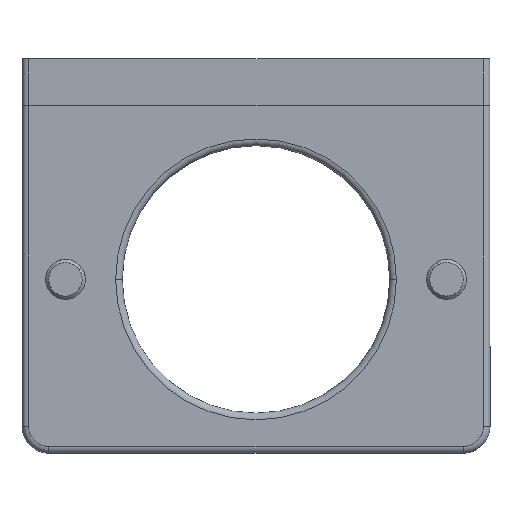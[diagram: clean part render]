
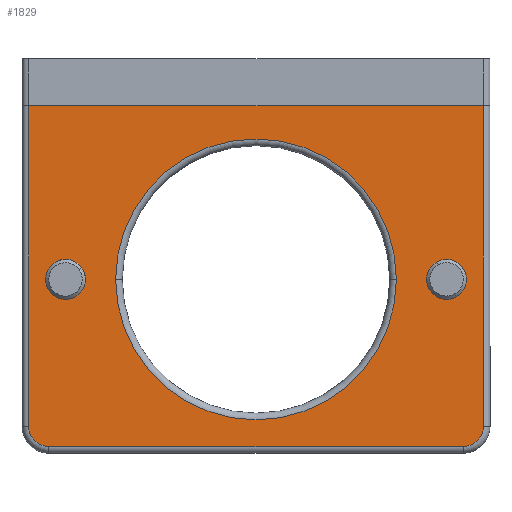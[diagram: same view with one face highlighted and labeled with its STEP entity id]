
A CAD part, front view. The second image highlights one B-rep face of the part: STEP entity #1829.
In plain terms, the highlighted planar face has unit normal (0, -1, 0).
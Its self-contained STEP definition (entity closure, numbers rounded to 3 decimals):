
#123 = LINE ( 'NONE', #3876, #3827 ) ;
#176 = DIRECTION ( 'NONE',  ( 1., 0., 0. ) ) ;
#262 = CARTESIAN_POINT ( 'NONE',  ( 43.232, -6.936, -3.5 ) ) ;
#297 = DIRECTION ( 'NONE',  ( -1., 0., 0. ) ) ;
#310 = CARTESIAN_POINT ( 'NONE',  ( -21.768, -6.936, -51.5 ) ) ;
#571 = CIRCLE ( 'NONE', #3276, 3. ) ;
#688 = ORIENTED_EDGE ( 'NONE', *, *, #3683, .T. ) ;
#690 = CARTESIAN_POINT ( 'NONE',  ( -19.268, -6.936, -29.5 ) ) ;
#703 = LINE ( 'NONE', #1059, #3357 ) ;
#757 = DIRECTION ( 'NONE',  ( 0., 1., 0. ) ) ;
#775 = EDGE_CURVE ( 'NONE', #3717, #3322, #4233, .T. ) ;
#796 = DIRECTION ( 'NONE',  ( 1., 0., 0. ) ) ;
#875 = CARTESIAN_POINT ( 'NONE',  ( 37.732, -6.936, -29.5 ) ) ;
#946 = CARTESIAN_POINT ( 'NONE',  ( 43.232, -6.936, -51.5 ) ) ;
#975 = VERTEX_POINT ( 'NONE', #2696 ) ;
#1042 = EDGE_LOOP ( 'NONE', ( #6017, #5910 ) ) ;
#1059 = CARTESIAN_POINT ( 'NONE',  ( -25.768, -6.936, -54.5 ) ) ;
#1079 = DIRECTION ( 'NONE',  ( 0., 0., -1. ) ) ;
#1091 = CARTESIAN_POINT ( 'NONE',  ( -25.768, -6.936, -3.5 ) ) ;
#1107 = VERTEX_POINT ( 'NONE', #6140 ) ;
#1128 = CARTESIAN_POINT ( 'NONE',  ( -25.768, -6.936, -3.5 ) ) ;
#1152 = EDGE_LOOP ( 'NONE', ( #3590, #2668 ) ) ;
#1230 = CARTESIAN_POINT ( 'NONE',  ( 40.232, -6.936, -51.5 ) ) ;
#1246 = DIRECTION ( 'NONE',  ( 0., -1., 0. ) ) ;
#1294 = DIRECTION ( 'NONE',  ( 1., 0., 0. ) ) ;
#1357 = AXIS2_PLACEMENT_3D ( 'NONE', #5239, #3369, #5197 ) ;
#1458 = VERTEX_POINT ( 'NONE', #5953 ) ;
#1520 = ORIENTED_EDGE ( 'NONE', *, *, #3324, .T. ) ;
#1574 = EDGE_CURVE ( 'NONE', #3520, #2646, #6061, .T. ) ;
#1829 = ADVANCED_FACE ( 'NONE', ( #6200, #3768, #5037, #1955 ), #3976, .F. ) ;
#1908 = AXIS2_PLACEMENT_3D ( 'NONE', #3584, #5456, #2596 ) ;
#1934 = CIRCLE ( 'NONE', #5474, 21. ) ;
#1955 = FACE_BOUND ( 'NONE', #1042, .T. ) ;
#2057 = CARTESIAN_POINT ( 'NONE',  ( -21.768, -6.936, -54.5 ) ) ;
#2145 = DIRECTION ( 'NONE',  ( 1., 0., 0. ) ) ;
#2271 = LINE ( 'NONE', #262, #5399 ) ;
#2280 = CARTESIAN_POINT ( 'NONE',  ( -24.768, -6.936, -3.5 ) ) ;
#2379 = ORIENTED_EDGE ( 'NONE', *, *, #4955, .T. ) ;
#2405 = CIRCLE ( 'NONE', #3306, 21. ) ;
#2527 = ORIENTED_EDGE ( 'NONE', *, *, #6202, .T. ) ;
#2596 = DIRECTION ( 'NONE',  ( 1., 0., 0. ) ) ;
#2646 = VERTEX_POINT ( 'NONE', #6004 ) ;
#2668 = ORIENTED_EDGE ( 'NONE', *, *, #1574, .T. ) ;
#2696 = CARTESIAN_POINT ( 'NONE',  ( -24.768, -6.936, -51.5 ) ) ;
#2764 = VERTEX_POINT ( 'NONE', #2280 ) ;
#2823 = VERTEX_POINT ( 'NONE', #3681 ) ;
#2892 = EDGE_CURVE ( 'NONE', #2646, #3520, #3076, .T. ) ;
#3076 = CIRCLE ( 'NONE', #1357, 3. ) ;
#3184 = DIRECTION ( 'NONE',  ( 0., 1., 0. ) ) ;
#3229 = EDGE_CURVE ( 'NONE', #3322, #3717, #3688, .T. ) ;
#3276 = AXIS2_PLACEMENT_3D ( 'NONE', #1230, #1246, #6010 ) ;
#3306 = AXIS2_PLACEMENT_3D ( 'NONE', #5168, #3184, #1294 ) ;
#3322 = VERTEX_POINT ( 'NONE', #5645 ) ;
#3324 = EDGE_CURVE ( 'NONE', #1458, #2823, #2405, .T. ) ;
#3357 = VECTOR ( 'NONE', #4369, 1000. ) ;
#3369 = DIRECTION ( 'NONE',  ( 0., 1., 0. ) ) ;
#3520 = VERTEX_POINT ( 'NONE', #6211 ) ;
#3552 = EDGE_CURVE ( 'NONE', #2764, #975, #123, .T. ) ;
#3584 = CARTESIAN_POINT ( 'NONE',  ( -19.268, -6.936, -29.5 ) ) ;
#3590 = ORIENTED_EDGE ( 'NONE', *, *, #2892, .T. ) ;
#3621 = CARTESIAN_POINT ( 'NONE',  ( 40.232, -6.936, -54.5 ) ) ;
#3652 = DIRECTION ( 'NONE',  ( 0., 0., 1. ) ) ;
#3681 = CARTESIAN_POINT ( 'NONE',  ( -11.768, -6.936, -29.5 ) ) ;
#3683 = EDGE_CURVE ( 'NONE', #5605, #5383, #571, .T. ) ;
#3688 = CIRCLE ( 'NONE', #6077, 3. ) ;
#3701 = DIRECTION ( 'NONE',  ( 0., 1., 0. ) ) ;
#3717 = VERTEX_POINT ( 'NONE', #4584 ) ;
#3727 = ORIENTED_EDGE ( 'NONE', *, *, #4320, .T. ) ;
#3768 = FACE_BOUND ( 'NONE', #1152, .T. ) ;
#3780 = CARTESIAN_POINT ( 'NONE',  ( 9.232, -6.936, -29.5 ) ) ;
#3802 = LINE ( 'NONE', #1128, #6164 ) ;
#3827 = VECTOR ( 'NONE', #1079, 1000. ) ;
#3857 = AXIS2_PLACEMENT_3D ( 'NONE', #1091, #6018, #4101 ) ;
#3876 = CARTESIAN_POINT ( 'NONE',  ( -24.768, -6.936, -3.5 ) ) ;
#3878 = ORIENTED_EDGE ( 'NONE', *, *, #5033, .F. ) ;
#3976 = PLANE ( 'NONE',  #3857 ) ;
#3984 = ORIENTED_EDGE ( 'NONE', *, *, #3552, .T. ) ;
#4101 = DIRECTION ( 'NONE',  ( 1., 0., 0. ) ) ;
#4125 = AXIS2_PLACEMENT_3D ( 'NONE', #310, #4203, #796 ) ;
#4180 = DIRECTION ( 'NONE',  ( 1., 0., 0. ) ) ;
#4203 = DIRECTION ( 'NONE',  ( 0., -1., 0. ) ) ;
#4233 = CIRCLE ( 'NONE', #1908, 3. ) ;
#4254 = AXIS2_PLACEMENT_3D ( 'NONE', #875, #5104, #297 ) ;
#4320 = EDGE_CURVE ( 'NONE', #975, #4917, #4636, .T. ) ;
#4363 = EDGE_CURVE ( 'NONE', #2823, #1458, #1934, .T. ) ;
#4369 = DIRECTION ( 'NONE',  ( 1., 0., 0. ) ) ;
#4584 = CARTESIAN_POINT ( 'NONE',  ( -22.268, -6.936, -29.5 ) ) ;
#4636 = CIRCLE ( 'NONE', #4125, 3. ) ;
#4917 = VERTEX_POINT ( 'NONE', #2057 ) ;
#4955 = EDGE_CURVE ( 'NONE', #4917, #5605, #703, .T. ) ;
#5033 = EDGE_CURVE ( 'NONE', #2764, #1107, #3802, .T. ) ;
#5037 = FACE_OUTER_BOUND ( 'NONE', #6169, .T. ) ;
#5104 = DIRECTION ( 'NONE',  ( 0., 1., 0. ) ) ;
#5168 = CARTESIAN_POINT ( 'NONE',  ( 9.232, -6.936, -29.5 ) ) ;
#5197 = DIRECTION ( 'NONE',  ( -1., 0., 0. ) ) ;
#5239 = CARTESIAN_POINT ( 'NONE',  ( 37.732, -6.936, -29.5 ) ) ;
#5383 = VERTEX_POINT ( 'NONE', #946 ) ;
#5399 = VECTOR ( 'NONE', #3652, 1000. ) ;
#5456 = DIRECTION ( 'NONE',  ( 0., 1., 0. ) ) ;
#5474 = AXIS2_PLACEMENT_3D ( 'NONE', #3780, #3701, #4180 ) ;
#5487 = ORIENTED_EDGE ( 'NONE', *, *, #4363, .T. ) ;
#5605 = VERTEX_POINT ( 'NONE', #3621 ) ;
#5645 = CARTESIAN_POINT ( 'NONE',  ( -16.268, -6.936, -29.5 ) ) ;
#5910 = ORIENTED_EDGE ( 'NONE', *, *, #3229, .T. ) ;
#5953 = CARTESIAN_POINT ( 'NONE',  ( 30.232, -6.936, -29.5 ) ) ;
#6004 = CARTESIAN_POINT ( 'NONE',  ( 34.732, -6.936, -29.5 ) ) ;
#6010 = DIRECTION ( 'NONE',  ( 1., 0., 0. ) ) ;
#6017 = ORIENTED_EDGE ( 'NONE', *, *, #775, .T. ) ;
#6018 = DIRECTION ( 'NONE',  ( 0., 1., 0. ) ) ;
#6061 = CIRCLE ( 'NONE', #4254, 3. ) ;
#6077 = AXIS2_PLACEMENT_3D ( 'NONE', #690, #757, #176 ) ;
#6140 = CARTESIAN_POINT ( 'NONE',  ( 43.232, -6.936, -3.5 ) ) ;
#6164 = VECTOR ( 'NONE', #2145, 1000. ) ;
#6169 = EDGE_LOOP ( 'NONE', ( #688, #2527, #3878, #3984, #3727, #2379 ) ) ;
#6177 = EDGE_LOOP ( 'NONE', ( #1520, #5487 ) ) ;
#6200 = FACE_BOUND ( 'NONE', #6177, .T. ) ;
#6202 = EDGE_CURVE ( 'NONE', #5383, #1107, #2271, .T. ) ;
#6211 = CARTESIAN_POINT ( 'NONE',  ( 40.732, -6.936, -29.5 ) ) ;
